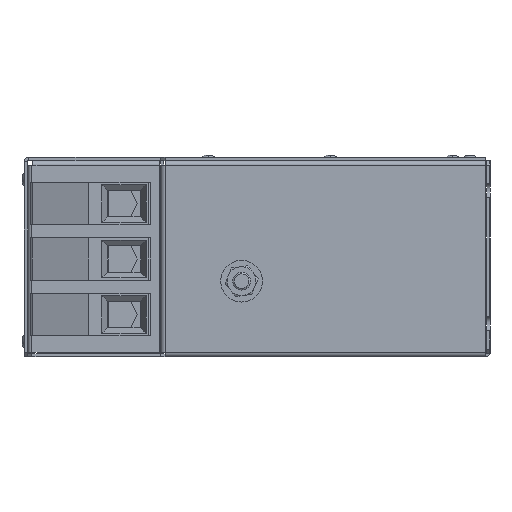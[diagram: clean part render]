
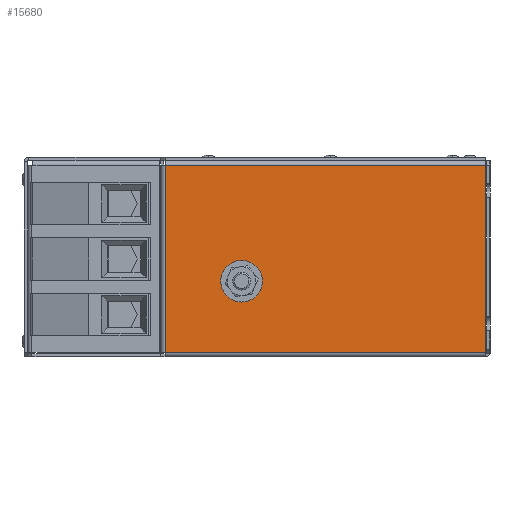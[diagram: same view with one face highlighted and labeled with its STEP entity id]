
A CAD part, left-side view. The second image highlights one B-rep face of the part: STEP entity #15680.
In plain terms, the highlighted planar face has unit normal (-1, 0, 0).
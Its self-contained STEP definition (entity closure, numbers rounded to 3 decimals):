
#458 = VERTEX_POINT ( 'NONE', #642 ) ;
#462 = VERTEX_POINT ( 'NONE', #14757 ) ;
#642 = CARTESIAN_POINT ( 'NONE',  ( -128.5, 0.5, -43. ) ) ;
#1041 = EDGE_CURVE ( 'NONE', #462, #6489, #9089, .T. ) ;
#1044 = EDGE_LOOP ( 'NONE', ( #1495, #15703 ) ) ;
#1245 = AXIS2_PLACEMENT_3D ( 'NONE', #8158, #13349, #10837 ) ;
#1495 = ORIENTED_EDGE ( 'NONE', *, *, #15050, .T. ) ;
#2316 = DIRECTION ( 'NONE',  ( 0., 0., -1. ) ) ;
#2472 = VECTOR ( 'NONE', #5435, 1000. ) ;
#2476 = EDGE_LOOP ( 'NONE', ( #12800, #14791, #2940, #3503 ) ) ;
#2940 = ORIENTED_EDGE ( 'NONE', *, *, #12282, .F. ) ;
#3109 = DIRECTION ( 'NONE',  ( 0., 0., -1. ) ) ;
#3503 = ORIENTED_EDGE ( 'NONE', *, *, #15911, .T. ) ;
#4115 = VECTOR ( 'NONE', #11769, 1000. ) ;
#4362 = CARTESIAN_POINT ( 'NONE',  ( -128.5, 0., 0. ) ) ;
#4717 = LINE ( 'NONE', #10531, #2472 ) ;
#4932 = VERTEX_POINT ( 'NONE', #7039 ) ;
#5435 = DIRECTION ( 'NONE',  ( 0., 0., -1. ) ) ;
#5634 = EDGE_CURVE ( 'NONE', #4932, #14922, #9191, .T. ) ;
#6380 = VECTOR ( 'NONE', #6460, 1000. ) ;
#6460 = DIRECTION ( 'NONE',  ( 0., 1., 0. ) ) ;
#6480 = FACE_OUTER_BOUND ( 'NONE', #2476, .T. ) ;
#6489 = VERTEX_POINT ( 'NONE', #9433 ) ;
#6523 = VERTEX_POINT ( 'NONE', #6824 ) ;
#6702 = CIRCLE ( 'NONE', #1245, 4. ) ;
#6824 = CARTESIAN_POINT ( 'NONE',  ( -128.5, 145., -43. ) ) ;
#7039 = CARTESIAN_POINT ( 'NONE',  ( -128.5, 110.5, -6.854 ) ) ;
#7119 = PLANE ( 'NONE',  #15825 ) ;
#8048 = AXIS2_PLACEMENT_3D ( 'NONE', #15065, #8694, #2316 ) ;
#8158 = CARTESIAN_POINT ( 'NONE',  ( -128.5, 110.5, -10.854 ) ) ;
#8423 = DIRECTION ( 'NONE',  ( 1., 0., 0. ) ) ;
#8694 = DIRECTION ( 'NONE',  ( 1., 0., 0. ) ) ;
#9062 = CARTESIAN_POINT ( 'NONE',  ( -128.5, 0.5, 0. ) ) ;
#9089 = LINE ( 'NONE', #12929, #4115 ) ;
#9191 = CIRCLE ( 'NONE', #8048, 4. ) ;
#9433 = CARTESIAN_POINT ( 'NONE',  ( -128.5, 145., 41.5 ) ) ;
#10531 = CARTESIAN_POINT ( 'NONE',  ( -128.5, 145., 43.5 ) ) ;
#10837 = DIRECTION ( 'NONE',  ( 0., 0., -1. ) ) ;
#11769 = DIRECTION ( 'NONE',  ( 0., 1., 0. ) ) ;
#12282 = EDGE_CURVE ( 'NONE', #458, #6523, #14160, .T. ) ;
#12762 = CARTESIAN_POINT ( 'NONE',  ( -128.5, 147., -43. ) ) ;
#12800 = ORIENTED_EDGE ( 'NONE', *, *, #1041, .T. ) ;
#12929 = CARTESIAN_POINT ( 'NONE',  ( -128.5, 0.5, 41.5 ) ) ;
#13011 = CARTESIAN_POINT ( 'NONE',  ( -128.5, 110.5, -14.854 ) ) ;
#13349 = DIRECTION ( 'NONE',  ( 1., 0., 0. ) ) ;
#13660 = VECTOR ( 'NONE', #14155, 1000. ) ;
#14054 = LINE ( 'NONE', #9062, #13660 ) ;
#14155 = DIRECTION ( 'NONE',  ( 0., 0., 1. ) ) ;
#14160 = LINE ( 'NONE', #12762, #6380 ) ;
#14757 = CARTESIAN_POINT ( 'NONE',  ( -128.5, 0.5, 41.5 ) ) ;
#14791 = ORIENTED_EDGE ( 'NONE', *, *, #15530, .T. ) ;
#14922 = VERTEX_POINT ( 'NONE', #13011 ) ;
#15050 = EDGE_CURVE ( 'NONE', #14922, #4932, #6702, .T. ) ;
#15065 = CARTESIAN_POINT ( 'NONE',  ( -128.5, 110.5, -10.854 ) ) ;
#15530 = EDGE_CURVE ( 'NONE', #6489, #6523, #4717, .T. ) ;
#15680 = ADVANCED_FACE ( 'NONE', ( #16051, #6480 ), #7119, .F. ) ;
#15703 = ORIENTED_EDGE ( 'NONE', *, *, #5634, .T. ) ;
#15825 = AXIS2_PLACEMENT_3D ( 'NONE', #4362, #8423, #3109 ) ;
#15911 = EDGE_CURVE ( 'NONE', #458, #462, #14054, .T. ) ;
#16051 = FACE_BOUND ( 'NONE', #1044, .T. ) ;
